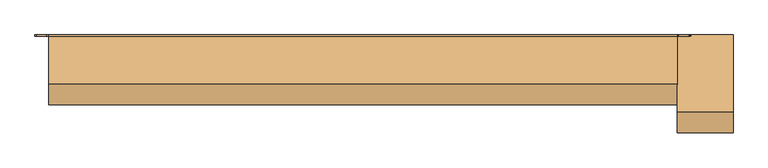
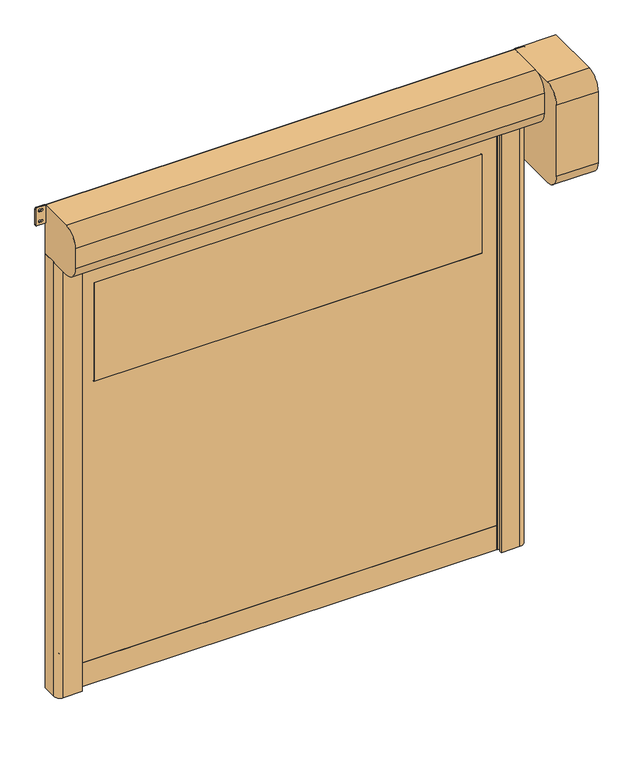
"""IFC4 building model written with IfcOpenShell, lengths in millimetres: door geometry, DO_WPB_Dynamicroll_BMP : Dynamicroll."""

from ifc_helpers import new_model, si_unit, point, frame, frame_2d, origin, origin_with_axes, place, context, project, spatial, polyline, circle_curve, trimmed, segment, composite_curve, outline, extrude, source, transform, mapped, element, save


def door_93b81783(model_context):
    return source(origin(), model_context, "Body", "SweptSolid", [
        extrude(outline(composite_curve([segment(trimmed(circle_curve(frame_2d((1416.6666667, 1064.0)), 6.0), [point((1422.6666667, 1064.0))], [point((1410.6666667, 1064.0))], False, "CARTESIAN"), True, "CONTINUOUS"), segment(polyline([(1410.6666667, 1064.0), (1410.6666667, 1082.0)]), True, "CONTINUOUS"), segment(trimmed(circle_curve(frame_2d((1416.6666667, 1082.0)), 6.0), [point((1410.6666667, 1082.0))], [point((1422.6666667, 1082.0))], False, "CARTESIAN"), True, "CONTINUOUS"), segment(polyline([(1422.6666667, 1082.0), (1422.6666667, 1064.0)]), True, "CONTINUOUS")], self_intersect=False)), frame((0.0, -20.0, 0.0), z_axis=(0.0, 1.0, 0.0), x_axis=(0.0, 0.0, 1.0)), (0.0, 0.0, 1.0), 20.0),
        extrude(outline(composite_curve([segment(trimmed(circle_curve(frame_2d((783.3333333, 1064.0)), 6.0), [point((789.3333333, 1064.0))], [point((777.3333333, 1064.0))], False, "CARTESIAN"), True, "CONTINUOUS"), segment(polyline([(777.3333333, 1064.0), (777.3333333, 1082.0)]), True, "CONTINUOUS"), segment(trimmed(circle_curve(frame_2d((783.3333333, 1082.0)), 6.0), [point((777.3333333, 1082.0))], [point((789.3333333, 1082.0))], False, "CARTESIAN"), True, "CONTINUOUS"), segment(polyline([(789.3333333, 1082.0), (789.3333333, 1064.0)]), True, "CONTINUOUS")], self_intersect=False)), frame((0.0, -20.0, 0.0), z_axis=(0.0, 1.0, 0.0), x_axis=(0.0, 0.0, 1.0)), (0.0, 0.0, 1.0), 20.0),
        extrude(outline(composite_curve([segment(trimmed(circle_curve(frame_2d((2050.0, 1064.0)), 6.0), [point((2056.0, 1064.0))], [point((2044.0, 1064.0))], False, "CARTESIAN"), True, "CONTINUOUS"), segment(polyline([(2044.0, 1064.0), (2044.0, 1082.0)]), True, "CONTINUOUS"), segment(trimmed(circle_curve(frame_2d((2050.0, 1082.0)), 6.0), [point((2044.0, 1082.0))], [point((2056.0, 1082.0))], False, "CARTESIAN"), True, "CONTINUOUS"), segment(polyline([(2056.0, 1082.0), (2056.0, 1064.0)]), True, "CONTINUOUS")], self_intersect=False)), frame((0.0, -20.0, 0.0), z_axis=(0.0, 1.0, 0.0), x_axis=(0.0, 0.0, 1.0)), (0.0, 0.0, 1.0), 20.0),
        extrude(outline(composite_curve([segment(trimmed(circle_curve(frame_2d((150.0, 1064.0)), 6.0), [point((156.0, 1064.0))], [point((144.0, 1064.0))], False, "CARTESIAN"), True, "CONTINUOUS"), segment(polyline([(144.0, 1064.0), (144.0, 1082.0)]), True, "CONTINUOUS"), segment(trimmed(circle_curve(frame_2d((150.0, 1082.0)), 6.0), [point((144.0, 1082.0))], [point((156.0, 1082.0))], False, "CARTESIAN"), True, "CONTINUOUS"), segment(polyline([(156.0, 1082.0), (156.0, 1064.0)]), True, "CONTINUOUS")], self_intersect=False)), frame((0.0, -20.0, 0.0), z_axis=(0.0, 1.0, 0.0), x_axis=(0.0, 0.0, 1.0)), (0.0, 0.0, 1.0), 20.0),
        extrude(outline(composite_curve([segment(polyline([(1422.6666667, -1064.0), (1422.6666667, -1082.0)]), True, "CONTINUOUS"), segment(trimmed(circle_curve(frame_2d((1416.6666667, -1082.0)), 6.0), [point((1422.6666667, -1082.0))], [point((1410.6666667, -1082.0))], False, "CARTESIAN"), True, "CONTINUOUS"), segment(polyline([(1410.6666667, -1082.0), (1410.6666667, -1064.0)]), True, "CONTINUOUS"), segment(trimmed(circle_curve(frame_2d((1416.6666667, -1064.0)), 6.0), [point((1410.6666667, -1064.0))], [point((1422.6666667, -1064.0))], False, "CARTESIAN"), True, "CONTINUOUS")], self_intersect=False)), frame((0.0, -20.0, 0.0), z_axis=(0.0, 1.0, 0.0), x_axis=(0.0, 0.0, 1.0)), (0.0, 0.0, 1.0), 20.0),
        extrude(outline(composite_curve([segment(polyline([(789.3333333, -1064.0), (789.3333333, -1082.0)]), True, "CONTINUOUS"), segment(trimmed(circle_curve(frame_2d((783.3333333, -1082.0)), 6.0), [point((789.3333333, -1082.0))], [point((777.3333333, -1082.0))], False, "CARTESIAN"), True, "CONTINUOUS"), segment(polyline([(777.3333333, -1082.0), (777.3333333, -1064.0)]), True, "CONTINUOUS"), segment(trimmed(circle_curve(frame_2d((783.3333333, -1064.0)), 6.0), [point((777.3333333, -1064.0))], [point((789.3333333, -1064.0))], False, "CARTESIAN"), True, "CONTINUOUS")], self_intersect=False)), frame((0.0, -20.0, 0.0), z_axis=(0.0, 1.0, 0.0), x_axis=(0.0, 0.0, 1.0)), (0.0, 0.0, 1.0), 20.0),
        extrude(outline(composite_curve([segment(polyline([(2056.0, -1064.0), (2056.0, -1082.0)]), True, "CONTINUOUS"), segment(trimmed(circle_curve(frame_2d((2050.0, -1082.0)), 6.0), [point((2056.0, -1082.0))], [point((2044.0, -1082.0))], False, "CARTESIAN"), True, "CONTINUOUS"), segment(polyline([(2044.0, -1082.0), (2044.0, -1064.0)]), True, "CONTINUOUS"), segment(trimmed(circle_curve(frame_2d((2050.0, -1064.0)), 6.0), [point((2044.0, -1064.0))], [point((2056.0, -1064.0))], False, "CARTESIAN"), True, "CONTINUOUS")], self_intersect=False)), frame((0.0, -20.0, 0.0), z_axis=(0.0, 1.0, 0.0), x_axis=(0.0, 0.0, 1.0)), (0.0, 0.0, 1.0), 20.0),
        extrude(outline(composite_curve([segment(polyline([(156.0, -1064.0), (156.0, -1082.0)]), True, "CONTINUOUS"), segment(trimmed(circle_curve(frame_2d((150.0, -1082.0)), 6.0), [point((156.0, -1082.0))], [point((144.0, -1082.0))], False, "CARTESIAN"), True, "CONTINUOUS"), segment(polyline([(144.0, -1082.0), (144.0, -1064.0)]), True, "CONTINUOUS"), segment(trimmed(circle_curve(frame_2d((150.0, -1064.0)), 6.0), [point((144.0, -1064.0))], [point((156.0, -1064.0))], False, "CARTESIAN"), True, "CONTINUOUS")], self_intersect=False)), frame((0.0, -20.0, 0.0), z_axis=(0.0, 1.0, 0.0), x_axis=(0.0, 0.0, 1.0)), (0.0, 0.0, 1.0), 20.0),
        extrude(outline(composite_curve([segment(trimmed(circle_curve(frame_2d((1526.0, 929.0)), 1.0), [point((1525.0, 929.0))], [point((1526.0, 930.0))], False, "CARTESIAN"), True, "CONTINUOUS"), segment(polyline([(1526.0, 930.0), (2024.0, 930.0)]), True, "CONTINUOUS"), segment(trimmed(circle_curve(frame_2d((2024.0, 929.0)), 1.0), [point((2024.0, 930.0))], [point((2025.0, 929.0))], False, "CARTESIAN"), True, "CONTINUOUS"), segment(polyline([(2025.0, 929.0), (2025.0, -929.0)]), True, "CONTINUOUS"), segment(trimmed(circle_curve(frame_2d((2024.0, -929.0)), 1.0), [point((2025.0, -929.0))], [point((2024.0, -930.0))], False, "CARTESIAN"), True, "CONTINUOUS"), segment(polyline([(2024.0, -930.0), (1526.0, -930.0)]), True, "CONTINUOUS"), segment(trimmed(circle_curve(frame_2d((1526.0, -929.0)), 1.0), [point((1526.0, -930.0))], [point((1525.0, -929.0))], False, "CARTESIAN"), True, "CONTINUOUS"), segment(polyline([(1525.0, -929.0), (1525.0, 929.0)]), True, "CONTINUOUS")], self_intersect=False)), frame((0.0, -68.5, 0.0), z_axis=(0.0, 1.0, 0.0), x_axis=(0.0, 0.0, 1.0)), (0.0, 0.0, 1.0), 7.0),
        extrude(outline(polyline([(120.0, -1012.0), (120.0, 1012.0), (2325.0, 1012.0), (2325.0, -1012.0), (120.0, -1012.0)]), holes=[composite_curve([segment(trimmed(circle_curve(frame_2d((1526.0, 929.0)), 1.0), [point((1526.0, 930.0))], [point((1525.0, 929.0))], True, "CARTESIAN"), True, "CONTINUOUS"), segment(polyline([(1525.0, 929.0), (1525.0, -929.0)]), True, "CONTINUOUS"), segment(trimmed(circle_curve(frame_2d((1526.0, -929.0)), 1.0), [point((1525.0, -929.0))], [point((1526.0, -930.0))], True, "CARTESIAN"), True, "CONTINUOUS"), segment(polyline([(1526.0, -930.0), (2024.0, -930.0)]), True, "CONTINUOUS"), segment(trimmed(circle_curve(frame_2d((2024.0, -929.0)), 1.0), [point((2024.0, -930.0))], [point((2025.0, -929.0))], True, "CARTESIAN"), True, "CONTINUOUS"), segment(polyline([(2025.0, -929.0), (2025.0, 929.0)]), True, "CONTINUOUS"), segment(trimmed(circle_curve(frame_2d((2024.0, 929.0)), 1.0), [point((2025.0, 929.0))], [point((2024.0, 930.0))], True, "CARTESIAN"), True, "CONTINUOUS"), segment(polyline([(2024.0, 930.0), (1526.0, 930.0)]), True, "CONTINUOUS")], self_intersect=False)]), frame((0.0, -68.5, 0.0), z_axis=(0.0, 1.0, 0.0), x_axis=(0.0, 0.0, 1.0)), (0.0, 0.0, 1.0), 7.0),
        extrude(outline(polyline([(-1012.0, -59.5), (1012.0, -59.5), (1012.0, -70.5), (-1012.0, -70.5), (-1012.0, -59.5)])), origin_with_axes(), (0.0, 0.0, 1.0), 120.0),
        extrude(outline(composite_curve([segment(polyline([(-1125.0, 0.0), (-1015.0, 0.0), (-1015.0, -49.2857143), (-1035.0, -55.0), (-1000.0, -55.0), (-1000.0, -61.5), (-1020.0, -61.5), (-1020.0, -68.5), (-1000.0, -68.5), (-1000.0, -75.0), (-1035.0, -75.0), (-1035.0, -90.0), (-1005.0, -90.0), (-1005.0, -100.0), (-1095.0, -100.0)]), True, "CONTINUOUS"), segment(trimmed(circle_curve(frame_2d((-1095.0, -70.0)), 30.0), [point((-1095.0, -100.0))], [point((-1125.0, -70.0))], False, "CARTESIAN"), True, "CONTINUOUS"), segment(polyline([(-1125.0, -70.0), (-1125.0, 0.0)]), True, "CONTINUOUS")], self_intersect=False)), origin_with_axes(), (0.0, 0.0, 1.0), 2200.0),
        extrude(outline(composite_curve([segment(polyline([(1125.0, 0.0), (1125.0, -70.0)]), True, "CONTINUOUS"), segment(trimmed(circle_curve(frame_2d((1095.0, -70.0)), 30.0), [point((1125.0, -70.0))], [point((1095.0, -100.0))], False, "CARTESIAN"), True, "CONTINUOUS"), segment(polyline([(1095.0, -100.0), (1005.0, -100.0), (1005.0, -90.0), (1035.0, -90.0), (1035.0, -75.0), (1000.0, -75.0), (1000.0, -68.5), (1020.0, -68.5), (1020.0, -61.5), (1000.0, -61.5), (1000.0, -55.0), (1035.0, -55.0), (1015.0, -49.2857143), (1015.0, 0.0), (1125.0, 0.0)]), True, "CONTINUOUS")], self_intersect=False)), origin_with_axes(), (0.0, 0.0, 1.0), 2200.0),
        extrude(outline(composite_curve([segment(trimmed(circle_curve(frame_2d((2363.75, -1168.25)), 5.75), [point((2363.75, -1174.0))], [point((2358.0, -1168.25))], False, "CARTESIAN"), True, "CONTINUOUS"), segment(polyline([(2358.0, -1168.25), (2358.0, -1130.75)]), True, "CONTINUOUS"), segment(trimmed(circle_curve(frame_2d((2363.75, -1130.75)), 5.75), [point((2358.0, -1130.75))], [point((2363.75, -1125.0))], False, "CARTESIAN"), True, "CONTINUOUS"), segment(polyline([(2363.75, -1125.0), (2444.25, -1125.0)]), True, "CONTINUOUS"), segment(trimmed(circle_curve(frame_2d((2444.25, -1130.75)), 5.75), [point((2444.25, -1125.0))], [point((2450.0, -1130.75))], False, "CARTESIAN"), True, "CONTINUOUS"), segment(polyline([(2450.0, -1130.75), (2450.0, -1168.25)]), True, "CONTINUOUS"), segment(trimmed(circle_curve(frame_2d((2444.25, -1168.25)), 5.75), [point((2450.0, -1168.25))], [point((2444.25, -1174.0))], False, "CARTESIAN"), True, "CONTINUOUS"), segment(polyline([(2444.25, -1174.0), (2363.75, -1174.0)]), True, "CONTINUOUS")], self_intersect=False), holes=[composite_curve([segment(trimmed(circle_curve(frame_2d((2431.5, -1145.25)), 5.75), [point((2437.25, -1145.25))], [point((2425.75, -1145.25))], True, "CARTESIAN"), True, "CONTINUOUS"), segment(polyline([(2425.75, -1145.25), (2425.75, -1153.75)]), True, "CONTINUOUS"), segment(trimmed(circle_curve(frame_2d((2431.5, -1153.75)), 5.75), [point((2425.75, -1153.75))], [point((2437.25, -1153.75))], True, "CARTESIAN"), True, "CONTINUOUS"), segment(polyline([(2437.25, -1153.75), (2437.25, -1145.25)]), True, "CONTINUOUS")], self_intersect=False), composite_curve([segment(trimmed(circle_curve(frame_2d((2376.5, -1145.25)), 5.75), [point((2382.25, -1145.25))], [point((2370.75, -1145.25))], True, "CARTESIAN"), True, "CONTINUOUS"), segment(polyline([(2370.75, -1145.25), (2370.75, -1153.75)]), True, "CONTINUOUS"), segment(trimmed(circle_curve(frame_2d((2376.5, -1153.75)), 5.75), [point((2370.75, -1153.75))], [point((2382.25, -1153.75))], True, "CARTESIAN"), True, "CONTINUOUS"), segment(polyline([(2382.25, -1153.75), (2382.25, -1145.25)]), True, "CONTINUOUS")], self_intersect=False)]), frame((0.0, -5.0, 0.0), z_axis=(0.0, 1.0, 0.0), x_axis=(0.0, 0.0, 1.0)), (0.0, 0.0, 1.0), 5.0),
        extrude(outline(composite_curve([segment(trimmed(circle_curve(frame_2d((2363.75, 1130.75)), 5.75), [point((2363.75, 1125.0))], [point((2358.0, 1130.75))], False, "CARTESIAN"), True, "CONTINUOUS"), segment(polyline([(2358.0, 1130.75), (2358.0, 1168.25)]), True, "CONTINUOUS"), segment(trimmed(circle_curve(frame_2d((2363.75, 1168.25)), 5.75), [point((2358.0, 1168.25))], [point((2363.75, 1174.0))], False, "CARTESIAN"), True, "CONTINUOUS"), segment(polyline([(2363.75, 1174.0), (2444.25, 1174.0)]), True, "CONTINUOUS"), segment(trimmed(circle_curve(frame_2d((2444.25, 1168.25)), 5.75), [point((2444.25, 1174.0))], [point((2450.0, 1168.25))], False, "CARTESIAN"), True, "CONTINUOUS"), segment(polyline([(2450.0, 1168.25), (2450.0, 1130.75)]), True, "CONTINUOUS"), segment(trimmed(circle_curve(frame_2d((2444.25, 1130.75)), 5.75), [point((2450.0, 1130.75))], [point((2444.25, 1125.0))], False, "CARTESIAN"), True, "CONTINUOUS"), segment(polyline([(2444.25, 1125.0), (2363.75, 1125.0)]), True, "CONTINUOUS")], self_intersect=False), holes=[composite_curve([segment(trimmed(circle_curve(frame_2d((2431.5, 1153.75)), 5.75), [point((2437.25, 1153.75))], [point((2425.75, 1153.75))], True, "CARTESIAN"), True, "CONTINUOUS"), segment(polyline([(2425.75, 1153.75), (2425.75, 1145.25)]), True, "CONTINUOUS"), segment(trimmed(circle_curve(frame_2d((2431.5, 1145.25)), 5.75), [point((2425.75, 1145.25))], [point((2437.25, 1145.25))], True, "CARTESIAN"), True, "CONTINUOUS"), segment(polyline([(2437.25, 1145.25), (2437.25, 1153.75)]), True, "CONTINUOUS")], self_intersect=False), composite_curve([segment(trimmed(circle_curve(frame_2d((2376.5, 1153.75)), 5.75), [point((2382.25, 1153.75))], [point((2370.75, 1153.75))], True, "CARTESIAN"), True, "CONTINUOUS"), segment(polyline([(2370.75, 1153.75), (2370.75, 1145.25)]), True, "CONTINUOUS"), segment(trimmed(circle_curve(frame_2d((2376.5, 1145.25)), 5.75), [point((2370.75, 1145.25))], [point((2382.25, 1145.25))], True, "CARTESIAN"), True, "CONTINUOUS"), segment(polyline([(2382.25, 1145.25), (2382.25, 1153.75)]), True, "CONTINUOUS")], self_intersect=False)]), frame((0.0, -5.0, 0.0), z_axis=(0.0, 1.0, 0.0), x_axis=(0.0, 0.0, 1.0)), (0.0, 0.0, 1.0), 5.0),
        extrude(outline(composite_curve([segment(trimmed(circle_curve(frame_2d((-5.0, 2205.0)), 5.0), [point((0.0, 2205.0))], [point((-5.0, 2200.0))], False, "CARTESIAN"), True, "CONTINUOUS"), segment(polyline([(-5.0, 2200.0), (-175.0, 2200.0)]), True, "CONTINUOUS"), segment(trimmed(circle_curve(frame_2d((-175.0, 2275.0)), 75.0), [point((-175.0, 2200.0))], [point((-250.0, 2275.0))], False, "CARTESIAN"), True, "CONTINUOUS"), segment(polyline([(-250.0, 2275.0), (-250.0, 2375.0)]), True, "CONTINUOUS"), segment(trimmed(circle_curve(frame_2d((-175.0, 2375.0)), 75.0), [point((-250.0, 2375.0))], [point((-175.0, 2450.0))], False, "CARTESIAN"), True, "CONTINUOUS"), segment(polyline([(-175.0, 2450.0), (-5.0, 2450.0)]), True, "CONTINUOUS"), segment(trimmed(circle_curve(frame_2d((-5.0, 2445.0)), 5.0), [point((-5.0, 2450.0))], [point((0.0, 2445.0))], False, "CARTESIAN"), True, "CONTINUOUS"), segment(polyline([(0.0, 2445.0), (0.0, 2205.0)]), True, "CONTINUOUS")], self_intersect=False)), frame((-1125.0, 0.0, 0.0), z_axis=(1.0, 0.0, 0.0), x_axis=(0.0, 1.0, 0.0)), (0.0, 0.0, 1.0), 2250.0),
        extrude(outline(composite_curve([segment(polyline([(0.0, 2450.0), (0.0, 1940.0), (-275.0, 1940.0)]), True, "CONTINUOUS"), segment(trimmed(circle_curve(frame_2d((-275.0, 2015.0)), 75.0), [point((-275.0, 1940.0))], [point((-350.0, 2015.0))], False, "CARTESIAN"), True, "CONTINUOUS"), segment(polyline([(-350.0, 2015.0), (-350.0, 2375.0)]), True, "CONTINUOUS"), segment(trimmed(circle_curve(frame_2d((-275.0, 2375.0)), 75.0), [point((-350.0, 2375.0))], [point((-275.0, 2450.0))], False, "CARTESIAN"), True, "CONTINUOUS"), segment(polyline([(-275.0, 2450.0), (0.0, 2450.0)]), True, "CONTINUOUS")], self_intersect=False)), frame((1125.0, 0.0, 0.0), z_axis=(1.0, 0.0, 0.0), x_axis=(0.0, 1.0, 0.0)), (0.0, 0.0, 1.0), 200.0),
    ])


if __name__ == "__main__":
    model = new_model("IFC4")
    model_context = context("Model", 3, world=origin())
    ifc_project = project(units=[si_unit("LENGTHUNIT", "METRE", prefix="MILLI")], contexts=[model_context])
    site = spatial("IfcSite", under=ifc_project)
    building = spatial("IfcBuilding", under=site)
    placement = place(None, origin())
    door_shape = door_93b81783(model_context)
    element("IfcDoor", 1, ObjectType="DO_WPB_Dynamicroll_BMP : Dynamicroll", at=placement, inside=building, context=model_context, shape_type="MappedRepresentation", body=[
        mapped(door_shape, transform((0.0, 0.0, 0.0), x_axis=(1.0, 0.0, 0.0), y_axis=(0.0, 1.0, 0.0), z_axis=(0.0, 0.0, 1.0))),
    ])
    save(model, "model.ifc")
